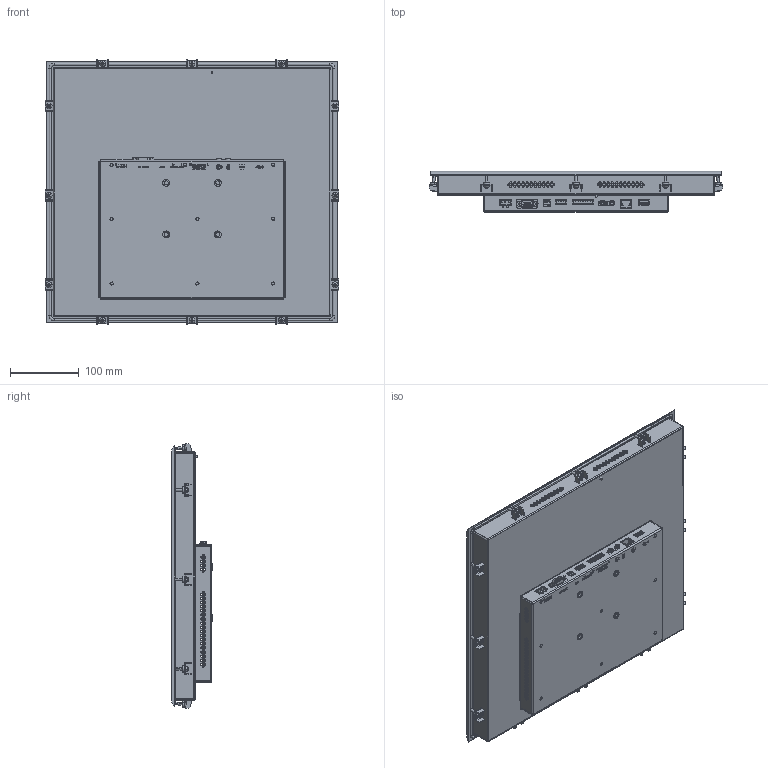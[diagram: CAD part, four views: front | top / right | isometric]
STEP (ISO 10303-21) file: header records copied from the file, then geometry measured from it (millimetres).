
FILE_DESCRIPTION (( 'STEP AP214' ), '1' );
FILE_NAME ('ﾏﾋﾊ19 ﾌ瑕褪.STEP', '2025-05-24T22:24:27', ( '' ), ( '' ), 'SwSTEP 2.0', 'SolidWorks 2021', '' );
FILE_SCHEMA (( 'AUTOMOTIVE_DESIGN' ));
Length unit declared in the file: millimetre
Products named in the file (1): ﾏﾋﾊ19 ﾌ瑕褪
Bounding box: 426.95 x 59.7 x 384.75 mm (x, y, z)
Surface area: 679004.7 mm2 (no closed solid volume)
Topology: 0 solids, 210 shells, 1695 faces, 11785 edges, 10177 vertices
Faces by surface type: plane 836, cylinder 720, cone 62, torus 45, bspline 32
Entity records: 136664 total; most frequent: CARTESIAN_POINT 36419, DIRECTION 15286, ORIENTED_EDGE 14429, EDGE_CURVE 11785, VERTEX_POINT 10177, LINE 5802, VECTOR 5802, AXIS2_PLACEMENT_3D 4742
